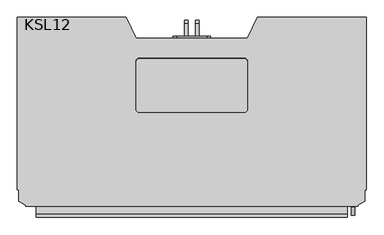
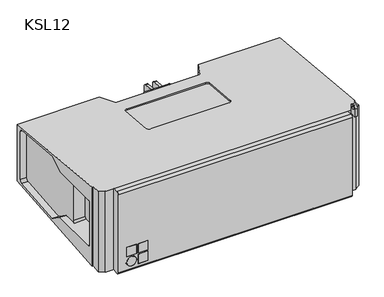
"""IFC4 building model written with IfcOpenShell, lengths in millimetres: proxy geometry, d&b SL-Series KSL : KSL12."""

from ifc_helpers import new_model, si_unit, point, frame, frame_2d, origin, place, context, project, spatial, polyline, circle_curve, trimmed, segment, composite_curve, outline, extrude, source, transform, mapped, element, save
from ifc_brep_helpers import plane_surface, cylinder_surface, revolved_surface, advanced_brep


def ksl12_920ca955(model_context):
    return source(origin(), model_context, "Body", "SolidModel", [
        advanced_brep(
        [(976.4019238, -123.1244027, 91.0), (976.4019238, -115.6244027, 83.5), (976.4019238, -115.6244027, -83.5), (976.4019238, -123.1244027, -91.0), (976.4019238, -70.6244027, -91.0), (976.4019238, -20.6244027, -124.9606604), (976.4019238, 181.0406135, -106.4302485), (976.4019238, 190.1255973, -96.4721993), (976.4019238, 190.1255973, -95.5807468), (976.4019238, 190.1255973, 95.5807468), (976.4019238, 190.1255973, 96.4721993), (976.4019238, 181.0406135, 106.4302485), (976.4019238, -20.6244027, 124.9606604), (976.4019238, -70.6244027, 91.0), (1000.0, 210.1255973, 113.7998414), (1000.0, 210.1255973, -113.7998414), (687.9784595, 210.1255973, -113.7998414), (687.9784595, 210.1255973, 113.7998414), (746.2781682, 210.1255973, 77.9807468), (712.8428103, 210.1255973, 20.0690081), (712.8428103, 210.1255973, -20.0690081), (746.2781682, 210.1255973, -77.9807468), (776.7622624, 210.1255973, -95.5807468), (950.8543039, 210.1255973, -95.5807468), (974.0543039, 210.1255973, -72.3807468), (974.0543039, 210.1255973, -44.8443894), (951.0482953, 210.1255973, -4.9968137), (951.0482953, 210.1255973, 4.9968137), (974.0543039, 210.1255973, 44.8443894), (974.0543039, 210.1255973, 72.3807468), (950.8543039, 210.1255973, 95.5807468), (776.7622624, 210.1255973, 95.5807468), (0.0, 210.1255973, -113.7998414), (0.0, 210.1255973, 113.7998414), (312.0215405, 210.1255973, 113.7998414), (312.0215405, 210.1255973, -113.7998414), (49.1456961, 210.1255973, 95.5807468), (25.9456961, 210.1255973, 72.3807468), (25.9456961, 210.1255973, 44.8443894), (48.9517047, 210.1255973, 4.9968137), (48.9517047, 210.1255973, -4.9968137), (25.9456961, 210.1255973, -44.8443894), (25.9456961, 210.1255973, -72.3807468), (49.1456961, 210.1255973, -95.5807468), (223.2377376, 210.1255973, -95.5807468), (253.7218318, 210.1255973, -77.9807468), (287.1571897, 210.1255973, -20.0690081), (287.1571897, 210.1255973, 20.0690081), (253.7218318, 210.1255973, 77.9807468), (223.2377376, 210.1255973, 95.5807468), (223.2377376, 196.3221752, 95.5807468), (49.1456961, 196.3221752, 95.5807468), (950.8543039, 196.3221752, 95.5807468), (776.7622624, 196.3221752, 95.5807468), (253.7218318, 196.3221752, 77.9807468), (287.1571897, 196.3221752, 20.0690081), (287.1571897, 196.3221752, -20.0690081), (253.7218318, 196.3221752, -77.9807468), (223.2377376, 196.3221752, -95.5807468), (49.1456961, 196.3221752, -95.5807468), (25.9456961, 196.3221752, -72.3807468), (25.9456961, 196.3221752, -44.8443894), (48.9517047, 196.3221752, -4.9968137), (48.9517047, 196.3221752, 4.9968137), (25.9456961, 196.3221752, 44.8443894), (25.9456961, 196.3221752, 72.3807468), (974.0543039, 196.3221752, 72.3807468), (974.0543039, 196.3221752, 44.8443894), (951.0482953, 196.3221752, 4.9968137), (951.0482953, 196.3221752, -4.9968137), (974.0543039, 196.3221752, -44.8443894), (974.0543039, 196.3221752, -72.3807468), (950.8543039, 196.3221752, -95.5807468), (776.7622624, 196.3221752, -95.5807468), (746.2781682, 196.3221752, -77.9807468), (712.8428103, 196.3221752, -20.0690081), (712.8428103, 196.3221752, 20.0690081), (746.2781682, 196.3221752, 77.9807468), (930.0, -257.6244027, 91.0), (976.4019238, -257.6244027, 91.0), (976.4019238, -265.1244027, 83.5), (930.0, -265.1244027, 83.5), (1000.0, -265.1244027, 83.5), (1000.0, -265.1244027, -83.5), (976.4019238, -265.1244027, -83.5), (930.0, -265.1244027, -83.5), (976.4019238, -257.6244027, -91.0), (930.0, -257.6244027, -91.0), (1000.0, -257.6244027, -91.0), (1000.0, -70.6244027, -91.0), (930.0, -123.1244027, -91.0), (930.0, -115.6244027, -83.5), (930.0, -115.6244027, 83.5), (930.0, -123.1244027, 91.0), (1000.0, -70.6244027, 91.0), (1000.0, -257.6244027, 91.0), (1000.0, -283.8744027, -159.1920647), (1000.0, -283.8744027, 159.1920647), (1000.0, 181.0406135, 106.4302485), (1000.0, 190.1255973, 96.4721993), (1000.0, 190.1255973, -96.4721993), (1000.0, 181.0406135, -106.4302485), (1000.0, -20.6244027, -124.9606604), (1000.0, -20.6244027, 124.9606604), (997.0, -283.8744027, 159.1920647), (997.0, -283.8744027, -159.1920647), (23.5980762, -123.1244027, -91.0), (23.5980762, -115.6244027, -83.5), (23.5980762, -115.6244027, 83.5), (23.5980762, -123.1244027, 91.0), (23.5980762, -70.6244027, 91.0), (23.5980762, -20.6244027, 124.9606604), (23.5980762, 181.0406135, 106.4302485), (23.5980762, 190.1255973, 96.4721993), (23.5980762, 190.1255973, 95.5807468), (23.5980762, 190.1255973, -95.5807468), (23.5980762, 190.1255973, -96.4721993), (23.5980762, 181.0406135, -106.4302485), (23.5980762, -20.6244027, -124.9606604), (23.5980762, -70.6244027, -91.0), (70.0, -257.6244027, 91.0), (23.5980762, -257.6244027, 91.0), (0.0, -257.6244027, 91.0), (0.0, -70.6244027, 91.0), (70.0, -123.1244027, 91.0), (70.0, -115.6244027, 83.5), (70.0, -115.6244027, -83.5), (70.0, -123.1244027, -91.0), (0.0, -70.6244027, -91.0), (0.0, -257.6244027, -91.0), (23.5980762, -257.6244027, -91.0), (70.0, -257.6244027, -91.0), (23.5980762, -265.1244027, -83.5), (70.0, -265.1244027, -83.5), (0.0, -265.1244027, -83.5), (0.0, -265.1244027, 83.5), (23.5980762, -265.1244027, 83.5), (70.0, -265.1244027, 83.5), (0.0, -283.8744027, -159.1920647), (0.0, -283.8744027, 159.1920647), (0.0, 181.0406135, 106.4302485), (0.0, -20.6244027, 124.9606604), (0.0, -20.6244027, -124.9606604), (0.0, 181.0406135, -106.4302485), (0.0, 190.1255973, -96.4721993), (0.0, 190.1255973, 96.4721993), (3.0, -283.8744027, -159.1920647), (3.0, -283.8744027, 159.1920647), (3.0, -316.5566714, 162.1951433), (23.5, -328.3923519, 163.2826896), (23.5, -330.1244027, 163.4418427), (976.5, -330.1244027, 163.4418427), (976.5, -328.3923519, 163.2826896), (997.0, -316.5566714, 162.1951433), (660.0, 150.1255973, 119.3130669), (340.0, 150.1255973, 119.3130669), (660.0, -52.0828968, 137.8934174), (650.0, -62.0409461, 138.8084335), (350.0, -62.0409461, 138.8084335), (340.0, -52.0828968, 137.8934174), (340.0, 83.6315767, 125.4230091), (350.0, 93.589626, 124.5079929), (650.0, 93.589626, 124.5079929), (660.0, 83.6315767, 125.4230091), (23.5, -328.3923519, -163.2826896), (3.0, -316.5566714, -162.1951433), (340.0, 150.1255973, -119.3130669), (660.0, 150.1255973, -119.3130669), (997.0, -316.5566714, -162.1951433), (976.5, -328.3923519, -163.2826896), (976.5, -330.1244027, -163.4418427), (23.5, -330.1244027, -163.4418427), (590.1880215, 150.1255973, 94.0), (580.1880215, 150.1255973, 84.0), (580.1880215, 150.1255973, -84.0101384), (590.1880215, 150.1255973, -94.0101384), (640.1880215, 150.1255973, -94.0101384), (650.1880215, 150.1255973, -84.0101384), (650.1880215, 150.1255973, 84.0), (640.1880215, 150.1255973, 94.0), (650.0, -62.4984542, 133.8294089), (660.0, -52.5404049, 132.9143927), (660.0, 83.1740686, 120.4439844), (650.0, 93.1321179, 119.5289683), (350.0, 93.1321179, 119.5289683), (340.0, 83.1740686, 120.4439844), (340.0, -52.5404049, 132.9143927), (350.0, -62.4984542, 133.8294089), (580.1880215, 145.1255973, 84.0), (590.1880215, 145.1255973, 94.0), (640.1880215, 145.1255973, 94.0), (650.1880215, 145.1255973, 84.0), (650.1880215, 145.1255973, -84.0101384), (640.1880215, 145.1255973, -94.0101384), (590.1880215, 145.1255973, -94.0101384), (580.1880215, 145.1255973, -84.0101384)],
        [
            (0, 1, circle_curve(frame((976.4019238, -123.1244027, 83.5), z_axis=(-1.0, 0.0, 0.0), x_axis=(0.0, 1.0, 0.0)), 7.5)),
            (1, 2),
            (2, 3, circle_curve(frame((976.4019238, -123.1244027, -83.5), z_axis=(-1.0, 0.0, 0.0), x_axis=(0.0, 1.0, 0.0)), 7.5)),
            (3, 4),
            (4, 5),
            (5, 6),
            (6, 7, circle_curve(frame((976.4019238, 180.1255973, -96.4721993), z_axis=(1.0, 0.0, 0.0), x_axis=(0.0, 1.0, 0.0)), 10.0)),
            (7, 8),
            (8, 9),
            (9, 10),
            (10, 11, circle_curve(frame((976.4019238, 180.1255973, 96.4721993), z_axis=(1.0, 0.0, 0.0), x_axis=(0.0, 1.0, 0.0)), 10.0)),
            (11, 12),
            (12, 13),
            (13, 0),
            (14, 15),
            (15, 16),
            (16, 17),
            (17, 14),
            (18, 19),
            (19, 20),
            (20, 21),
            (21, 22, circle_curve(frame((776.7622624, 210.1255973, -60.3807468), z_axis=(0.0, -1.0, 0.0), x_axis=(-1.0, 0.0, 0.0)), 35.2)),
            (22, 23),
            (23, 24, circle_curve(frame((950.8543039, 210.1255973, -72.3807468), z_axis=(0.0, -1.0, 0.0), x_axis=(-1.0, 0.0, 0.0)), 23.2)),
            (24, 25),
            (25, 26),
            (26, 27, circle_curve(frame((959.7030305, 210.1255973, 0.0), z_axis=(0.0, 1.0, 0.0), x_axis=(-1.0, 0.0, 0.0)), 9.9936274)),
            (27, 28),
            (28, 29),
            (29, 30, circle_curve(frame((950.8543039, 210.1255973, 72.3807468), z_axis=(0.0, -1.0, 0.0), x_axis=(-1.0, 0.0, 0.0)), 23.2)),
            (30, 31),
            (31, 18, circle_curve(frame((776.7622624, 210.1255973, 60.3807468), z_axis=(0.0, -1.0, 0.0), x_axis=(-1.0, 0.0, 0.0)), 35.2)),
            (32, 33),
            (33, 34),
            (34, 35),
            (35, 32),
            (36, 37, circle_curve(frame((49.1456961, 210.1255973, 72.3807468), z_axis=(0.0, -1.0, 0.0), x_axis=(-1.0, 0.0, 0.0)), 23.2)),
            (37, 38),
            (38, 39),
            (39, 40, circle_curve(frame((40.2969695, 210.1255973, 0.0), z_axis=(0.0, 1.0, 0.0), x_axis=(-1.0, 0.0, 0.0)), 9.9936274)),
            (40, 41),
            (41, 42),
            (42, 43, circle_curve(frame((49.1456961, 210.1255973, -72.3807468), z_axis=(0.0, -1.0, 0.0), x_axis=(-1.0, 0.0, 0.0)), 23.2)),
            (43, 44),
            (44, 45, circle_curve(frame((223.2377376, 210.1255973, -60.3807468), z_axis=(0.0, -1.0, 0.0), x_axis=(-1.0, 0.0, 0.0)), 35.2)),
            (45, 46),
            (46, 47),
            (47, 48),
            (48, 49, circle_curve(frame((223.2377376, 210.1255973, 60.3807468), z_axis=(0.0, -1.0, 0.0), x_axis=(-1.0, 0.0, 0.0)), 35.2)),
            (49, 36),
            (49, 50),
            (50, 51),
            (51, 36),
            (30, 52),
            (52, 53),
            (53, 31),
            (50, 54, circle_curve(frame((223.2377376, 196.3221752, 60.3807468), z_axis=(0.0, 1.0, 0.0), x_axis=(-1.0, 0.0, 0.0)), 35.2)),
            (54, 55),
            (55, 56),
            (56, 57),
            (57, 58, circle_curve(frame((223.2377376, 196.3221752, -60.3807468), z_axis=(0.0, 1.0, 0.0), x_axis=(-1.0, 0.0, 0.0)), 35.2)),
            (58, 59),
            (59, 60, circle_curve(frame((49.1456961, 196.3221752, -72.3807468), z_axis=(0.0, 1.0, 0.0), x_axis=(-1.0, 0.0, 0.0)), 23.2)),
            (60, 61),
            (61, 62),
            (62, 63, circle_curve(frame((40.2969695, 196.3221752, 0.0), z_axis=(0.0, -1.0, 0.0), x_axis=(-1.0, 0.0, 0.0)), 9.9936274)),
            (63, 64),
            (64, 65),
            (65, 51, circle_curve(frame((49.1456961, 196.3221752, 72.3807468), z_axis=(0.0, 1.0, 0.0), x_axis=(-1.0, 0.0, 0.0)), 23.2)),
            (52, 66, circle_curve(frame((950.8543039, 196.3221752, 72.3807468), z_axis=(0.0, 1.0, 0.0), x_axis=(-1.0, 0.0, 0.0)), 23.2)),
            (66, 67),
            (67, 68),
            (68, 69, circle_curve(frame((959.7030305, 196.3221752, 0.0), z_axis=(0.0, -1.0, 0.0), x_axis=(-1.0, 0.0, 0.0)), 9.9936274)),
            (69, 70),
            (70, 71),
            (71, 72, circle_curve(frame((950.8543039, 196.3221752, -72.3807468), z_axis=(0.0, 1.0, 0.0), x_axis=(-1.0, 0.0, 0.0)), 23.2)),
            (72, 73),
            (73, 74, circle_curve(frame((776.7622624, 196.3221752, -60.3807468), z_axis=(0.0, 1.0, 0.0), x_axis=(-1.0, 0.0, 0.0)), 35.2)),
            (74, 75),
            (75, 76),
            (76, 77),
            (77, 53, circle_curve(frame((776.7622624, 196.3221752, 60.3807468), z_axis=(0.0, 1.0, 0.0), x_axis=(-1.0, 0.0, 0.0)), 35.2)),
            (43, 59),
            (58, 44),
            (22, 73),
            (72, 23),
            (78, 79),
            (79, 80, circle_curve(frame((976.4019238, -257.6244027, 83.5), z_axis=(1.0, 0.0, 0.0), x_axis=(0.0, 1.0, 0.0)), 7.5)),
            (80, 81),
            (81, 78, circle_curve(frame((930.0, -257.6244027, 83.5), z_axis=(-1.0, 0.0, 0.0), x_axis=(0.0, 1.0, 0.0)), 7.5)),
            (80, 82),
            (82, 83),
            (83, 84),
            (84, 85),
            (85, 81),
            (84, 86, circle_curve(frame((976.4019238, -257.6244027, -83.5), z_axis=(1.0, 0.0, 0.0), x_axis=(0.0, 1.0, 0.0)), 7.5)),
            (86, 87),
            (87, 85, circle_curve(frame((930.0, -257.6244027, -83.5), z_axis=(-1.0, 0.0, 0.0), x_axis=(0.0, 1.0, 0.0)), 7.5)),
            (86, 88),
            (88, 89),
            (89, 4),
            (3, 90),
            (90, 87),
            (2, 91),
            (91, 90, circle_curve(frame((930.0, -123.1244027, -83.5), z_axis=(-1.0, 0.0, 0.0), x_axis=(0.0, 1.0, 0.0)), 7.5)),
            (1, 92),
            (92, 91),
            (0, 93),
            (93, 92, circle_curve(frame((930.0, -123.1244027, 83.5), z_axis=(-1.0, 0.0, 0.0), x_axis=(0.0, 1.0, 0.0)), 7.5)),
            (78, 93),
            (13, 94),
            (94, 95),
            (95, 79),
            (96, 15),
            (14, 97),
            (97, 96),
            (98, 99, circle_curve(frame((1000.0, 180.1255973, 96.4721993), z_axis=(-1.0, 0.0, 0.0), x_axis=(0.0, 1.0, 0.0)), 10.0)),
            (99, 100),
            (100, 101, circle_curve(frame((1000.0, 180.1255973, -96.4721993), z_axis=(-1.0, 0.0, 0.0), x_axis=(0.0, 1.0, 0.0)), 10.0)),
            (101, 102),
            (102, 89),
            (88, 83, circle_curve(frame((1000.0, -257.6244027, -83.5), z_axis=(-1.0, 0.0, 0.0), x_axis=(0.0, 1.0, 0.0)), 7.5)),
            (82, 95, circle_curve(frame((1000.0, -257.6244027, 83.5), z_axis=(-1.0, 0.0, 0.0), x_axis=(0.0, 1.0, 0.0)), 7.5)),
            (94, 103),
            (103, 98),
            (97, 104),
            (104, 105),
            (105, 96),
            (103, 12),
            (11, 98),
            (102, 5),
            (101, 6),
            (100, 7),
            (99, 10),
            (106, 107, circle_curve(frame((23.5980762, -123.1244027, -83.5), z_axis=(1.0, 0.0, 0.0), x_axis=(0.0, 1.0, 0.0)), 7.5)),
            (107, 108),
            (108, 109, circle_curve(frame((23.5980762, -123.1244027, 83.5), z_axis=(1.0, 0.0, 0.0), x_axis=(0.0, 1.0, 0.0)), 7.5)),
            (109, 110),
            (110, 111),
            (111, 112),
            (112, 113, circle_curve(frame((23.5980762, 180.1255973, 96.4721993), z_axis=(-1.0, 0.0, 0.0), x_axis=(0.0, 1.0, 0.0)), 10.0)),
            (113, 114),
            (114, 115),
            (115, 116),
            (116, 117, circle_curve(frame((23.5980762, 180.1255973, -96.4721993), z_axis=(-1.0, 0.0, 0.0), x_axis=(0.0, 1.0, 0.0)), 10.0)),
            (117, 118),
            (118, 119),
            (119, 106),
            (120, 121),
            (121, 122),
            (122, 123),
            (123, 110),
            (109, 124),
            (124, 120),
            (108, 125),
            (125, 124, circle_curve(frame((70.0, -123.1244027, 83.5), z_axis=(1.0, 0.0, 0.0), x_axis=(0.0, 1.0, 0.0)), 7.5)),
            (107, 126),
            (126, 125),
            (106, 127),
            (127, 126, circle_curve(frame((70.0, -123.1244027, -83.5), z_axis=(1.0, 0.0, 0.0), x_axis=(0.0, 1.0, 0.0)), 7.5)),
            (119, 128),
            (128, 129),
            (129, 130),
            (130, 131),
            (131, 127),
            (130, 132, circle_curve(frame((23.5980762, -257.6244027, -83.5), z_axis=(-1.0, 0.0, 0.0), x_axis=(0.0, 1.0, 0.0)), 7.5)),
            (132, 133),
            (133, 131, circle_curve(frame((70.0, -257.6244027, -83.5), z_axis=(1.0, 0.0, 0.0), x_axis=(0.0, 1.0, 0.0)), 7.5)),
            (132, 134),
            (134, 135),
            (135, 136),
            (136, 137),
            (137, 133),
            (120, 137, circle_curve(frame((70.0, -257.6244027, 83.5), z_axis=(1.0, 0.0, 0.0), x_axis=(0.0, 1.0, 0.0)), 7.5)),
            (136, 121, circle_curve(frame((23.5980762, -257.6244027, 83.5), z_axis=(-1.0, 0.0, 0.0), x_axis=(0.0, 1.0, 0.0)), 7.5)),
            (138, 139),
            (139, 33),
            (32, 138),
            (140, 141),
            (141, 123),
            (122, 135, circle_curve(frame((0.0, -257.6244027, 83.5), z_axis=(1.0, 0.0, 0.0), x_axis=(0.0, 1.0, 0.0)), 7.5)),
            (134, 129, circle_curve(frame((0.0, -257.6244027, -83.5), z_axis=(1.0, 0.0, 0.0), x_axis=(0.0, 1.0, 0.0)), 7.5)),
            (128, 142),
            (142, 143),
            (143, 144, circle_curve(frame((0.0, 180.1255973, -96.4721993), z_axis=(1.0, 0.0, 0.0), x_axis=(0.0, 1.0, 0.0)), 10.0)),
            (144, 145),
            (145, 140, circle_curve(frame((0.0, 180.1255973, 96.4721993), z_axis=(1.0, 0.0, 0.0), x_axis=(0.0, 1.0, 0.0)), 10.0)),
            (138, 146),
            (146, 147),
            (147, 139),
            (140, 112),
            (111, 141),
            (118, 142),
            (117, 143),
            (116, 144),
            (113, 145),
            (148, 149),
            (149, 150),
            (150, 151),
            (151, 152),
            (152, 153),
            (153, 104),
            (17, 154),
            (154, 155),
            (155, 34),
            (147, 148),
            (156, 157, circle_curve(frame((650.0, -52.0828968, 137.8934174), z_axis=(0.0, -0.09150161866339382, -0.9958049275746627), x_axis=(0.0, -0.9958049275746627, 0.09150161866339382)), 10.0)),
            (157, 158),
            (158, 159, circle_curve(frame((350.0, -52.0828968, 137.8934174), z_axis=(0.0, -0.09150161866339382, -0.9958049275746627), x_axis=(0.0, -0.9958049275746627, 0.09150161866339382)), 10.0)),
            (159, 160),
            (160, 161, circle_curve(frame((350.0, 83.6315767, 125.4230091), z_axis=(0.0, -0.09150161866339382, -0.9958049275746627), x_axis=(0.0, -0.9958049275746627, 0.09150161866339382)), 10.0)),
            (161, 162),
            (162, 163, circle_curve(frame((650.0, 83.6315767, 125.4230091), z_axis=(0.0, -0.09150161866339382, -0.9958049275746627), x_axis=(0.0, -0.9958049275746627, 0.09150161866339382)), 10.0)),
            (163, 156),
            (164, 165),
            (165, 146),
            (35, 166),
            (166, 167),
            (167, 16),
            (105, 168),
            (168, 169),
            (169, 170),
            (170, 171),
            (171, 164),
            (148, 165),
            (164, 149),
            (171, 150),
            (170, 151),
            (169, 152),
            (168, 153),
            (155, 166),
            (154, 167),
            (172, 173, circle_curve(frame((590.1880215, 150.1255973, 84.0), z_axis=(0.0, -1.0, 0.0), x_axis=(-1.0, 0.0, 0.0)), 10.0)),
            (173, 174),
            (174, 175, circle_curve(frame((590.1880215, 150.1255973, -84.0101384), z_axis=(0.0, -1.0, 0.0), x_axis=(-1.0, 0.0, 0.0)), 10.0)),
            (175, 176),
            (176, 177, circle_curve(frame((640.1880215, 150.1255973, -84.0101384), z_axis=(0.0, -1.0, 0.0), x_axis=(-1.0, 0.0, 0.0)), 10.0)),
            (177, 178),
            (178, 179, circle_curve(frame((640.1880215, 150.1255973, 84.0), z_axis=(0.0, -1.0, 0.0), x_axis=(-1.0, 0.0, 0.0)), 10.0)),
            (179, 172),
            (47, 55),
            (54, 48),
            (46, 56),
            (45, 57),
            (42, 60),
            (41, 61),
            (40, 62),
            (39, 63),
            (38, 64),
            (37, 65),
            (18, 77),
            (76, 19),
            (75, 20),
            (74, 21),
            (71, 24),
            (70, 25),
            (69, 26),
            (68, 27),
            (67, 28),
            (66, 29),
            (180, 181, circle_curve(frame((650.0, -52.5404049, 132.9143927), z_axis=(0.0, 0.09150161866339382, 0.9958049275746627), x_axis=(0.0, -0.9958049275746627, 0.09150161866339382)), 10.0)),
            (181, 182),
            (182, 183, circle_curve(frame((650.0, 83.1740686, 120.4439844), z_axis=(0.0, 0.09150161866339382, 0.9958049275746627), x_axis=(0.0, -0.9958049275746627, 0.09150161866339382)), 10.0)),
            (183, 184),
            (184, 185, circle_curve(frame((350.0, 83.1740686, 120.4439844), z_axis=(0.0, 0.09150161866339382, 0.9958049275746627), x_axis=(0.0, -0.9958049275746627, 0.09150161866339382)), 10.0)),
            (185, 186),
            (186, 187, circle_curve(frame((350.0, -52.5404049, 132.9143927), z_axis=(0.0, 0.09150161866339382, 0.9958049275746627), x_axis=(0.0, -0.9958049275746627, 0.09150161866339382)), 10.0)),
            (187, 180),
            (180, 157),
            (156, 181),
            (163, 182),
            (162, 183),
            (161, 184),
            (160, 185),
            (159, 186),
            (158, 187),
            (188, 189, circle_curve(frame((590.1880215, 145.1255973, 84.0), z_axis=(0.0, 1.0, 0.0), x_axis=(-1.0, 0.0, 0.0)), 10.0)),
            (189, 190),
            (190, 191, circle_curve(frame((640.1880215, 145.1255973, 84.0), z_axis=(0.0, 1.0, 0.0), x_axis=(-1.0, 0.0, 0.0)), 10.0)),
            (191, 192),
            (192, 193, circle_curve(frame((640.1880215, 145.1255973, -84.0101384), z_axis=(0.0, 1.0, 0.0), x_axis=(-1.0, 0.0, 0.0)), 10.0)),
            (193, 194),
            (194, 195, circle_curve(frame((590.1880215, 145.1255973, -84.0101384), z_axis=(0.0, 1.0, 0.0), x_axis=(-1.0, 0.0, 0.0)), 10.0)),
            (195, 188),
            (188, 173),
            (172, 189),
            (179, 190),
            (178, 191),
            (177, 192),
            (176, 193),
            (175, 194),
            (174, 195),
        ],
        [
            plane_surface(frame((976.4019238, -283.8744027, 191.9850007), z_axis=(1.0, 0.0, 0.0), x_axis=(0.0, 0.0, -1.0))),
            plane_surface(frame((930.0, 210.1255973, 113.7998414), z_axis=(0.0, 1.0, 0.0), x_axis=(1.0, 0.0, 0.0))),
            plane_surface(frame((930.0, 210.1255973, 95.5807468), z_axis=(0.0, 0.0, -1.0), x_axis=(1.0, 0.0, 0.0))),
            plane_surface(frame((930.0, 196.3221752, 95.5807468), z_axis=(0.0, 1.0, 0.0), x_axis=(1.0, 0.0, 0.0))),
            plane_surface(frame((930.0, 196.3221752, -95.5807468), z_axis=(0.0, 0.0, 1.0), x_axis=(1.0, 0.0, 0.0))),
            revolved_surface(polyline([(976.4019238, -250.12440270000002, 83.5), (930.0, -250.12440270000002, 83.5)]), (469.3, -257.6244027, 83.5), (1.0, 0.0, 0.0)),
            plane_surface(frame((930.0, -265.1244027, 83.5), z_axis=(0.0, 1.0, 0.0), x_axis=(1.0, 0.0, 0.0))),
            revolved_surface(polyline([(976.4019238, -250.12440270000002, -83.5), (930.0, -250.12440270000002, -83.5)]), (469.3, -257.6244027, -83.5), (1.0, 0.0, 0.0)),
            plane_surface(frame((930.0, -257.6244027, -91.0), z_axis=(0.0, 0.0, 1.0), x_axis=(1.0, 0.0, 0.0))),
            revolved_surface(polyline([(976.4019238, -115.6244027, -83.5), (930.0, -115.6244027, -83.5)]), (469.3, -123.1244027, -83.5), (1.0, 0.0, 0.0)),
            plane_surface(frame((930.0, -115.6244027, -83.5), z_axis=(0.0, -1.0, 0.0), x_axis=(1.0, 0.0, 0.0))),
            revolved_surface(polyline([(976.4019238, -115.6244027, 83.5), (930.0, -115.6244027, 83.5)]), (469.3, -123.1244027, 83.5), (1.0, 0.0, 0.0)),
            plane_surface(frame((930.0, -123.1244027, 91.0), z_axis=(0.0, 0.0, -1.0), x_axis=(1.0, 0.0, 0.0))),
            plane_surface(frame((1000.0, -283.8744027, 191.9850007), z_axis=(1.0, 0.0, 0.0), x_axis=(0.0, 0.0, -1.0))),
            plane_surface(frame((976.4019238, -283.8744027, -159.1920647), z_axis=(0.0, -1.0, 0.0), x_axis=(1.0, 0.0, 0.0))),
            plane_surface(frame((976.4019238, 181.0406135, 106.4302485), z_axis=(0.0, -0.09150161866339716, -0.9958049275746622), x_axis=(1.0, 0.0, 0.0))),
            plane_surface(frame((976.4019238, -20.6244027, 124.9606604), z_axis=(0.0, 0.5618648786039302, -0.8272290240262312), x_axis=(1.0, 0.0, 0.0))),
            revolved_surface(polyline([(1000.0, -250.12440270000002, 83.5), (976.4019238, -250.12440270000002, 83.5)]), (500.0, -257.6244027, 83.5), (1.0, 0.0, 0.0)),
            revolved_surface(polyline([(1000.0, -250.12440270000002, -83.5), (976.4019238, -250.12440270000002, -83.5)]), (500.0, -257.6244027, -83.5), (1.0, 0.0, 0.0)),
            plane_surface(frame((976.4019238, -70.6244027, -91.0), z_axis=(0.0, 0.561864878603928, 0.8272290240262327), x_axis=(1.0, 0.0, 0.0))),
            plane_surface(frame((976.4019238, -20.6244027, -124.9606604), z_axis=(0.0, -0.09150161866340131, 0.9958049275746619), x_axis=(1.0, 0.0, 0.0))),
            revolved_surface(polyline([(1000.0, 190.1255973, -96.4721993), (976.4019238, 190.1255973, -96.4721993)]), (500.0, 180.1255973, -96.4721993), (1.0, 0.0, 0.0)),
            plane_surface(frame((976.4019238, 190.1255973, -96.4721993), z_axis=(0.0, -1.0, 0.0), x_axis=(1.0, 0.0, 0.0))),
            revolved_surface(polyline([(1000.0, 190.1255973, 96.4721993), (976.4019238, 190.1255973, 96.4721993)]), (500.0, 180.1255973, 96.4721993), (1.0, 0.0, 0.0)),
            plane_surface(frame((23.5980762, -538.4291723, -182.5823621), z_axis=(-1.0, 0.0, 0.0), x_axis=(0.0, -0.9958049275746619, -0.09150161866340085))),
            plane_surface(frame((70.0, -257.6244027, 91.0), z_axis=(0.0, 0.0, -1.0), x_axis=(-1.0, 0.0, 0.0))),
            revolved_surface(polyline([(23.59807619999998, -115.6244027, 83.5), (70.0, -115.6244027, 83.5)]), (530.7, -123.1244027, 83.5), (-1.0, 0.0, 0.0)),
            plane_surface(frame((70.0, -115.6244027, 83.5), z_axis=(0.0, -1.0, 0.0), x_axis=(-1.0, 0.0, 0.0))),
            revolved_surface(polyline([(23.59807619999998, -115.6244027, -83.5), (70.0, -115.6244027, -83.5)]), (530.7, -123.1244027, -83.5), (-1.0, 0.0, 0.0)),
            plane_surface(frame((70.0, -123.1244027, -91.0), z_axis=(0.0, 0.0, 1.0), x_axis=(-1.0, 0.0, 0.0))),
            revolved_surface(polyline([(23.59807619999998, -250.12440270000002, -83.5), (70.0, -250.12440270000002, -83.5)]), (530.7, -257.6244027, -83.5), (-1.0, 0.0, 0.0)),
            plane_surface(frame((70.0, -265.1244027, -83.5), z_axis=(0.0, 1.0, 0.0), x_axis=(-1.0, 0.0, 0.0))),
            revolved_surface(polyline([(23.59807619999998, -250.12440270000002, 83.5), (70.0, -250.12440270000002, 83.5)]), (530.7, -257.6244027, 83.5), (-1.0, 0.0, 0.0)),
            plane_surface(frame((930.0, -538.4291723, -182.5823621), z_axis=(1.0, 0.0, 0.0), x_axis=(0.0, 0.9958049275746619, 0.09150161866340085))),
            plane_surface(frame((70.0, -538.4291723, -182.5823621), z_axis=(-1.0, 0.0, 0.0), x_axis=(0.0, -0.9958049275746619, -0.09150161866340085))),
            plane_surface(frame((0.0, -538.4291723, -182.5823621), z_axis=(-1.0, 0.0, 0.0), x_axis=(0.0, -0.9958049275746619, -0.09150161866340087))),
            plane_surface(frame((23.5980762, -283.8744027, 159.1920647), z_axis=(0.0, -1.0, 0.0), x_axis=(-1.0, 0.0, 0.0))),
            plane_surface(frame((23.5980762, -20.6244027, 124.9606604), z_axis=(0.0, -0.09150161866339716, -0.9958049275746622), x_axis=(-1.0, 0.0, 0.0))),
            plane_surface(frame((23.5980762, -70.6244027, 91.0), z_axis=(0.0, 0.5618648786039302, -0.8272290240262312), x_axis=(-1.0, 0.0, 0.0))),
            revolved_surface(polyline([(0.0, -250.12440270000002, 83.5), (23.59807619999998, -250.12440270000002, 83.5)]), (500.0, -257.6244027, 83.5), (-1.0, 0.0, 0.0)),
            plane_surface(frame((23.5980762, -20.6244027, -124.9606604), z_axis=(0.0, 0.561864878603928, 0.8272290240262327), x_axis=(-1.0, 0.0, 0.0))),
            plane_surface(frame((23.5980762, 181.0406135, -106.4302485), z_axis=(0.0, -0.09150161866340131, 0.9958049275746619), x_axis=(-1.0, 0.0, 0.0))),
            revolved_surface(polyline([(0.0, 190.1255973, -96.4721993), (23.59807619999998, 190.1255973, -96.4721993)]), (500.0, 180.1255973, -96.4721993), (-1.0, 0.0, 0.0)),
            plane_surface(frame((23.5980762, 190.1255973, 96.4721993), z_axis=(0.0, -1.0, 0.0), x_axis=(-1.0, 0.0, 0.0))),
            revolved_surface(polyline([(0.0, 190.1255973, 96.4721993), (23.59807619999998, 190.1255973, 96.4721993)]), (500.0, 180.1255973, 96.4721993), (-1.0, 0.0, 0.0)),
            revolved_surface(polyline([(0.0, -250.12440270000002, -83.5), (23.59807619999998, -250.12440270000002, -83.5)]), (500.0, -257.6244027, -83.5), (-1.0, 0.0, 0.0)),
            plane_surface(frame((1200.0, -336.6244027, 164.0391088), z_axis=(0.0, 0.09150161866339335, 0.9958049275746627), x_axis=(-1.0, 0.0, 0.0))),
            plane_surface(frame((1200.0, -271.6244027, -158.0664478), z_axis=(0.0, 0.09150161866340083, -0.9958049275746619), x_axis=(-1.0, 0.0, 0.0))),
            plane_surface(frame((3.0, -316.5566714, 200.0), z_axis=(-0.499999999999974, -0.8660254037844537, 0.0), x_axis=(0.0, 0.0, -1.0))),
            plane_surface(frame((23.5, -328.3923519, 200.0), z_axis=(-1.0, 0.0, 0.0), x_axis=(0.0, 0.0, -1.0))),
            plane_surface(frame((23.5, -330.1244027, 200.0), z_axis=(0.0, -1.0, 0.0), x_axis=(0.0, 0.0, -1.0))),
            plane_surface(frame((976.5, -330.1244027, 200.0), z_axis=(1.0, 0.0, 0.0), x_axis=(0.0, 0.0, -1.0))),
            plane_surface(frame((976.5, -328.3923519, 200.0), z_axis=(0.49999999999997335, -0.866025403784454, 0.0), x_axis=(0.0, 0.0, -1.0))),
            plane_surface(frame((997.0, -316.5566714, 200.0), z_axis=(1.0, 0.0, 0.0), x_axis=(0.0, 0.0, -1.0))),
            plane_surface(frame((3.0, -283.8744027, 200.0), z_axis=(-1.0, 0.0, 0.0), x_axis=(0.0, 0.0, -1.0))),
            plane_surface(frame((263.5255441, 314.1255973, 250.0), z_axis=(0.9063077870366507, 0.4226182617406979, 0.0), x_axis=(0.0, 0.0, -1.0))),
            plane_surface(frame((340.0, 150.1255973, 250.0), z_axis=(0.0, 1.0, 0.0), x_axis=(0.0, 0.0, -1.0))),
            plane_surface(frame((660.0, 150.1255973, 250.0), z_axis=(-0.9063077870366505, 0.4226182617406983, 0.0), x_axis=(0.0, 0.0, -1.0))),
            plane_surface(frame((287.1571897, 210.1255973, 20.0690081), z_axis=(-0.8660254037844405, 0.0, -0.49999999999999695), x_axis=(0.0, -1.0, 0.0))),
            plane_surface(frame((287.1571897, 210.1255973, -20.0690081), z_axis=(-1.0, 0.0, 0.0), x_axis=(0.0, -1.0, 0.0))),
            plane_surface(frame((253.7218318, 210.1255973, -77.9807468), z_axis=(-0.8660254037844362, 0.0, 0.5000000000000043), x_axis=(0.0, -1.0, 0.0))),
            revolved_surface(polyline([(188.0377376, 196.3221752, -60.3807468), (188.0377376, 210.1255973, -60.3807468)]), (223.2377376, 190.1255973, -60.3807468), (0.0, -1.0, 0.0)),
            revolved_surface(polyline([(25.945696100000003, 196.3221752, -72.3807468), (25.945696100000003, 210.1255973, -72.3807468)]), (49.1456961, 210.1255973, -72.3807468), (0.0, -1.0, 0.0)),
            plane_surface(frame((25.9456961, 210.1255973, -44.8443894), z_axis=(1.0, 0.0, 0.0), x_axis=(0.0, -1.0, 0.0))),
            plane_surface(frame((48.9517047, 210.1255973, -4.9968137), z_axis=(0.866025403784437, 0.0, -0.5000000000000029), x_axis=(0.0, -1.0, 0.0))),
            cylinder_surface(frame((40.2969695, 210.1255973, 0.0), z_axis=(0.0, 1.0, 0.0), x_axis=(-1.0, 0.0, 0.0)), 9.9936274),
            plane_surface(frame((25.9456961, 210.1255973, 44.8443894), z_axis=(0.8660254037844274, 0.0, 0.5000000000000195), x_axis=(0.0, -1.0, 0.0))),
            plane_surface(frame((25.9456961, 210.1255973, 72.3807468), z_axis=(1.0, 0.0, 0.0), x_axis=(0.0, -1.0, 0.0))),
            revolved_surface(polyline([(25.945696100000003, 196.3221752, 72.3807468), (25.945696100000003, 210.1255973, 72.3807468)]), (49.1456961, 210.1255973, 72.3807468), (0.0, -1.0, 0.0)),
            revolved_surface(polyline([(188.0377376, 196.3221752, 60.3807468), (188.0377376, 210.1255973, 60.3807468)]), (223.2377376, 190.1255973, 60.3807468), (0.0, -1.0, 0.0)),
            plane_surface(frame((746.2781682, 210.1255973, 77.9807468), z_axis=(0.86602540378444, 0.0, -0.49999999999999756), x_axis=(0.0, -1.0, 0.0))),
            plane_surface(frame((712.8428103, 210.1255973, 20.0690081), z_axis=(1.0, 0.0, 0.0), x_axis=(0.0, -1.0, 0.0))),
            plane_surface(frame((712.8428103, 210.1255973, -20.0690081), z_axis=(0.8660254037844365, 0.0, 0.5000000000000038), x_axis=(0.0, -1.0, 0.0))),
            revolved_surface(polyline([(741.5622624, 196.3221752, -60.3807468), (741.5622624, 210.1255973, -60.3807468)]), (776.7622624, 210.1255973, -60.3807468), (0.0, -1.0, 0.0)),
            revolved_surface(polyline([(741.5622624, 196.3221752, 60.3807468), (741.5622624, 210.1255973, 60.3807468)]), (776.7622624, 210.1255973, 60.3807468), (0.0, -1.0, 0.0)),
            revolved_surface(polyline([(927.6543039, 196.3221752, -72.3807468), (927.6543039, 210.1255973, -72.3807468)]), (950.8543039, 210.1255973, -72.3807468), (0.0, -1.0, 0.0)),
            plane_surface(frame((974.0543039, 210.1255973, -72.3807468), z_axis=(-1.0, 0.0, 0.0), x_axis=(0.0, -1.0, 0.0))),
            plane_surface(frame((974.0543039, 210.1255973, -44.8443894), z_axis=(-0.8660254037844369, 0.0, -0.500000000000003), x_axis=(0.0, -1.0, 0.0))),
            cylinder_surface(frame((959.7030305, 210.1255973, 0.0), z_axis=(0.0, 1.0, 0.0), x_axis=(-1.0, 0.0, 0.0)), 9.9936274),
            plane_surface(frame((951.0482953, 210.1255973, 4.9968137), z_axis=(-0.866025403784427, 0.0, 0.5000000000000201), x_axis=(0.0, -1.0, 0.0))),
            plane_surface(frame((974.0543039, 210.1255973, 44.8443894), z_axis=(-1.0, 0.0, 0.0), x_axis=(0.0, -1.0, 0.0))),
            revolved_surface(polyline([(927.6543039, 196.3221752, 72.3807468), (927.6543039, 210.1255973, 72.3807468)]), (950.8543039, 210.1255973, 72.3807468), (0.0, -1.0, 0.0)),
            plane_surface(frame((650.0, -62.4984542, 133.8294089), z_axis=(0.0, 0.09150161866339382, 0.9958049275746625), x_axis=(-1.0, 0.0, 0.0))),
            revolved_surface(polyline([(650.0, -62.040946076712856, 138.80843358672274), (650.0, -62.49845417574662, 133.82940888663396)]), (650.0, -52.5404049, 132.9143927), (0.0, 0.09150161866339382, 0.9958049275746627)),
            plane_surface(frame((660.0, -52.0828968, 137.8934174), z_axis=(-1.0000000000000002, 0.0, 0.0), x_axis=(0.0, -0.09150161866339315, -0.9958049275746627))),
            revolved_surface(polyline([(650.0, 73.67352742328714, 126.33802528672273), (650.0, 73.21601932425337, 121.35900058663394)]), (650.0, 83.1740686, 120.4439844), (0.0, 0.09150161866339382, 0.9958049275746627)),
            plane_surface(frame((650.0, 93.589626, 124.5079929), z_axis=(0.0, -0.9958049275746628, 0.09150161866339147), x_axis=(0.0, -0.09150161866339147, -0.9958049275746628))),
            revolved_surface(polyline([(350.0, 73.67352742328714, 126.33802528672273), (350.0, 73.21601932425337, 121.35900058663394)]), (350.0, 83.1740686, 120.4439844), (0.0, 0.09150161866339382, 0.9958049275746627)),
            plane_surface(frame((340.0, 83.6315767, 125.4230091), z_axis=(1.0, 0.0, 0.0), x_axis=(0.0, -0.09150161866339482, -0.9958049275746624))),
            revolved_surface(polyline([(350.0, -62.040946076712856, 138.80843358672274), (350.0, -62.49845417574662, 133.82940888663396)]), (350.0, -52.5404049, 132.9143927), (0.0, 0.09150161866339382, 0.9958049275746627)),
            plane_surface(frame((350.0, -62.0409461, 138.8084335), z_axis=(0.0, 0.9958049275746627, -0.09150161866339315), x_axis=(0.0, -0.09150161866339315, -0.9958049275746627))),
            plane_surface(frame((580.1880215, 145.1255973, 84.0), z_axis=(0.0, 1.0, 0.0), x_axis=(0.0, 0.0, -1.0))),
            revolved_surface(polyline([(580.1880215, 150.1255973, 84.0), (580.1880215, 145.1255973, 84.0)]), (590.1880215, 145.1255973, 84.0), (0.0, 1.0, 0.0)),
            plane_surface(frame((590.1880215, 150.1255973, 94.0), z_axis=(0.0, 0.0, -1.0), x_axis=(0.0, -1.0, 0.0))),
            revolved_surface(polyline([(630.1880215, 150.1255973, 84.0), (630.1880215, 145.1255973, 84.0)]), (640.1880215, 145.1255973, 84.0), (0.0, 1.0, 0.0)),
            plane_surface(frame((650.1880215, 150.1255973, 84.0), z_axis=(-1.0, 0.0, 0.0), x_axis=(0.0, -1.0, 0.0))),
            revolved_surface(polyline([(630.1880215, 150.1255973, -84.0101384), (630.1880215, 145.1255973, -84.0101384)]), (640.1880215, 145.1255973, -84.0101384), (0.0, 1.0, 0.0)),
            plane_surface(frame((640.1880215, 150.1255973, -94.0101384), z_axis=(0.0, 0.0, 1.0), x_axis=(0.0, -1.0, 0.0))),
            revolved_surface(polyline([(580.1880215, 150.1255973, -84.0101384), (580.1880215, 145.1255973, -84.0101384)]), (590.1880215, 145.1255973, -84.0101384), (0.0, 1.0, 0.0)),
            plane_surface(frame((580.1880215, 150.1255973, -84.0101384), z_axis=(1.0, 0.0, 0.0), x_axis=(0.0, -1.0, 0.0))),
        ],
        [
            (0, [[1, 2, 3, 4, 5, 6, 7, 8, 9, 10, 11, 12, 13, 14]]),
            (1, [[15, 16, 17, 18], [19, 20, 21, 22, 23, 24, 25, 26, 27, 28, 29, 30, 31, 32]]),
            (1, [[33, 34, 35, 36], [37, 38, 39, 40, 41, 42, 43, 44, 45, 46, 47, 48, 49, 50]]),
            (2, [[-50, 51, 52, 53]]),
            (2, [[-31, 54, 55, 56]]),
            (3, [[-52, 57, 58, 59, 60, 61, 62, 63, 64, 65, 66, 67, 68, 69]]),
            (3, [[-55, 70, 71, 72, 73, 74, 75, 76, 77, 78, 79, 80, 81, 82]]),
            (4, [[-44, 83, -62, 84]]),
            (4, [[-23, 85, -77, 86]]),
            (5, [[87, 88, 89, 90]]),
            (6, [[-89, 91, 92, 93, 94, 95]]),
            (7, [[-94, 96, 97, 98]]),
            (8, [[-97, 99, 100, 101, -4, 102, 103]]),
            (9, [[-3, 104, 105, -102]]),
            (10, [[-2, 106, 107, -104]]),
            (11, [[-1, 108, 109, -106]]),
            (12, [[-87, 110, -108, -14, 111, 112, 113]]),
            (13, [[114, -15, 115, 116], [117, 118, 119, 120, 121, -100, 122, -92, 123, -112, 124, 125]]),
            (14, [[-116, 126, 127, 128]]),
            (15, [[-125, 129, -12, 130]]),
            (16, [[-124, -111, -13, -129]]),
            (17, [[-123, -91, -88, -113]]),
            (18, [[-122, -99, -96, -93]]),
            (19, [[-121, 131, -5, -101]]),
            (20, [[-120, 132, -6, -131]]),
            (21, [[-119, 133, -7, -132]]),
            (22, [[-118, 134, -10, -9, -8, -133]]),
            (23, [[-117, -130, -11, -134]]),
            (24, [[135, 136, 137, 138, 139, 140, 141, 142, 143, 144, 145, 146, 147, 148]]),
            (25, [[149, 150, 151, 152, -138, 153, 154]]),
            (26, [[-137, 155, 156, -153]]),
            (27, [[-136, 157, 158, -155]]),
            (28, [[-135, 159, 160, -157]]),
            (29, [[-159, -148, 161, 162, 163, 164, 165]]),
            (30, [[-164, 166, 167, 168]]),
            (31, [[-167, 169, 170, 171, 172, 173]]),
            (32, [[-149, 174, -172, 175]]),
            (33, [[-90, -95, -98, -103, -105, -107, -109, -110]]),
            (34, [[-154, -156, -158, -160, -165, -168, -173, -174]]),
            (35, [[176, 177, -33, 178], [179, 180, -151, 181, -170, 182, -162, 183, 184, 185, 186, 187]]),
            (36, [[-176, 188, 189, 190]]),
            (37, [[-179, 191, -140, 192]]),
            (38, [[-180, -192, -139, -152]]),
            (39, [[-181, -150, -175, -171]]),
            (40, [[-183, -161, -147, 193]]),
            (41, [[-184, -193, -146, 194]]),
            (42, [[-185, -194, -145, 195]]),
            (43, [[-186, -195, -144, -143, -142, 196]]),
            (44, [[-187, -196, -141, -191]]),
            (45, [[-182, -169, -166, -163]]),
            (46, [[197, 198, 199, 200, 201, 202, -126, -115, -18, 203, 204, 205, -34, -177, -190, 206], [207, 208, 209, 210, 211, 212, 213, 214]]),
            (47, [[215, 216, -188, -178, -36, 217, 218, 219, -16, -114, -128, 220, 221, 222, 223, 224]]),
            (48, [[225, -215, 226, -197]]),
            (49, [[-226, -224, 227, -198]]),
            (50, [[-227, -223, 228, -199]]),
            (51, [[-228, -222, 229, -200]]),
            (52, [[-229, -221, 230, -201]]),
            (53, [[-230, -220, -127, -202]]),
            (54, [[-225, -206, -189, -216]]),
            (55, [[231, -217, -35, -205]]),
            (56, [[-231, -204, 232, -218], [233, 234, 235, 236, 237, 238, 239, 240]]),
            (57, [[-232, -203, -17, -219]]),
            (58, [[-48, 241, -58, 242]]),
            (59, [[-47, 243, -59, -241]]),
            (60, [[-46, 244, -60, -243]]),
            (61, [[-45, -84, -61, -244]]),
            (62, [[-43, 245, -63, -83]]),
            (63, [[-42, 246, -64, -245]]),
            (64, [[-41, 247, -65, -246]]),
            (65, [[-40, 248, -66, -247]]),
            (66, [[-39, 249, -67, -248]]),
            (67, [[-38, 250, -68, -249]]),
            (68, [[-37, -53, -69, -250]]),
            (69, [[-49, -242, -57, -51]]),
            (70, [[-19, 251, -81, 252]]),
            (71, [[-20, -252, -80, 253]]),
            (72, [[-21, -253, -79, 254]]),
            (73, [[-22, -254, -78, -85]]),
            (74, [[-32, -56, -82, -251]]),
            (75, [[-24, -86, -76, 255]]),
            (76, [[-25, -255, -75, 256]]),
            (77, [[-26, -256, -74, 257]]),
            (78, [[-27, -257, -73, 258]]),
            (79, [[-28, -258, -72, 259]]),
            (80, [[-29, -259, -71, 260]]),
            (81, [[-30, -260, -70, -54]]),
            (82, [[261, 262, 263, 264, 265, 266, 267, 268]]),
            (83, [[-261, 269, -207, 270]]),
            (84, [[-262, -270, -214, 271]]),
            (85, [[-263, -271, -213, 272]]),
            (86, [[-264, -272, -212, 273]]),
            (87, [[-265, -273, -211, 274]]),
            (88, [[-266, -274, -210, 275]]),
            (89, [[-267, -275, -209, 276]]),
            (90, [[-268, -276, -208, -269]]),
            (91, [[277, 278, 279, 280, 281, 282, 283, 284]]),
            (92, [[-277, 285, -233, 286]]),
            (93, [[-278, -286, -240, 287]]),
            (94, [[-279, -287, -239, 288]]),
            (95, [[-280, -288, -238, 289]]),
            (96, [[-281, -289, -237, 290]]),
            (97, [[-282, -290, -236, 291]]),
            (98, [[-283, -291, -235, 292]]),
            (99, [[-284, -292, -234, -285]]),
        ],
    ),
        extrude(outline(polyline([(86.4761951, -351.6244027), (123.9761951, -351.6244027), (123.9761951, -361.6244027), (86.4761951, -361.6244027), (86.4761951, -351.6244027)])), frame((0.0, 0.0, -103.6029929), z_axis=(0.0, 0.0, 1.0), x_axis=(1.0, 0.0, 0.0)), (0.0, 0.0, 1.0), 37.5),
        extrude(outline(polyline([(129.333338, -351.6244027), (166.833338, -351.6244027), (166.833338, -361.6244027), (129.333338, -361.6244027), (129.333338, -351.6244027)])), frame((0.0, 0.0, -103.6029929), z_axis=(0.0, 0.0, 1.0), x_axis=(1.0, 0.0, 0.0)), (0.0, 0.0, 1.0), 37.5),
        extrude(outline(polyline([(129.333338, -351.6244027), (166.833338, -351.6244027), (166.833338, -361.6244027), (129.333338, -361.6244027), (129.333338, -351.6244027)])), frame((0.0, 0.0, -146.4601358), z_axis=(0.0, 0.0, 1.0), x_axis=(1.0, 0.0, 0.0)), (0.0, 0.0, 1.0), 37.5),
        extrude(outline(composite_curve([segment(trimmed(circle_curve(frame_2d((-127.7101358, 105.2261951)), 18.75), [point((-108.9601358, 105.2261951))], [point((-146.4601358, 105.2261951))], False, "CARTESIAN"), True, "CONTINUOUS"), segment(trimmed(circle_curve(frame_2d((-127.7101358, 105.2261951)), 18.75), [point((-146.4601358, 105.2261951))], [point((-108.9601358, 105.2261951))], False, "CARTESIAN"), True, "CONTINUOUS")], self_intersect=False)), frame((0.0, -361.6244027, 0.0), z_axis=(0.0, 1.0, 0.0), x_axis=(0.0, 0.0, 1.0)), (0.0, 0.0, 1.0), 10.0),
        extrude(outline(composite_curve([segment(polyline([(-84.0101384, 650.1880215), (84.0, 650.1880215)]), True, "CONTINUOUS"), segment(trimmed(circle_curve(frame_2d((84.0, 640.1880215)), 10.0), [point((84.0, 650.1880215))], [point((94.0, 640.1880215))], False, "CARTESIAN"), True, "CONTINUOUS"), segment(polyline([(94.0, 640.1880215), (94.0, 590.1880215)]), True, "CONTINUOUS"), segment(trimmed(circle_curve(frame_2d((84.0, 590.1880215)), 10.0), [point((94.0, 590.1880215))], [point((84.0, 580.1880215))], False, "CARTESIAN"), True, "CONTINUOUS"), segment(polyline([(84.0, 580.1880215), (-84.0101384, 580.1880215)]), True, "CONTINUOUS"), segment(trimmed(circle_curve(frame_2d((-84.0101384, 590.1880215)), 10.0), [point((-84.0101384, 580.1880215))], [point((-94.0101384, 590.1880215))], False, "CARTESIAN"), True, "CONTINUOUS"), segment(polyline([(-94.0101384, 590.1880215), (-94.0101384, 640.1880215)]), True, "CONTINUOUS"), segment(trimmed(circle_curve(frame_2d((-84.0101384, 640.1880215)), 10.0), [point((-94.0101384, 640.1880215))], [point((-84.0101384, 650.1880215))], False, "CARTESIAN"), True, "CONTINUOUS")], self_intersect=False)), frame((0.0, 145.1255973, 0.0), z_axis=(0.0, 1.0, 0.0), x_axis=(0.0, 0.0, 1.0)), (0.0, 0.0, 1.0), 5.0),
        extrude(outline(composite_curve([segment(trimmed(circle_curve(frame_2d((192.6255973, -105.3657381)), 10.0), [point((202.6255973, -105.3657381))], [point((193.5406135, -115.3237873))], False, "CARTESIAN"), True, "CONTINUOUS"), segment(polyline([(193.5406135, -115.3237873), (156.1255973, -118.7617444), (156.1255973, 118.7617444), (193.5406135, 115.3237873)]), True, "CONTINUOUS"), segment(trimmed(circle_curve(frame_2d((192.6255973, 105.3657381)), 10.0), [point((193.5406135, 115.3237873))], [point((202.6255973, 105.3657381))], False, "CARTESIAN"), True, "CONTINUOUS"), segment(polyline([(202.6255973, 105.3657381), (202.6255973, -105.3657381)]), True, "CONTINUOUS")], self_intersect=False)), frame((511.25, 0.0, 0.0), z_axis=(1.0, 0.0, 0.0), x_axis=(0.0, 1.0, 0.0)), (0.0, 0.0, 1.0), 10.0),
        extrude(outline(composite_curve([segment(trimmed(circle_curve(frame_2d((192.6255973, -105.3657381)), 10.0), [point((202.6255973, -105.3657381))], [point((193.5406135, -115.3237873))], False, "CARTESIAN"), True, "CONTINUOUS"), segment(polyline([(193.5406135, -115.3237873), (156.1255973, -118.7617444), (156.1255973, 118.7617444), (193.5406135, 115.3237873)]), True, "CONTINUOUS"), segment(trimmed(circle_curve(frame_2d((192.6255973, 105.3657381)), 10.0), [point((193.5406135, 115.3237873))], [point((202.6255973, 105.3657381))], False, "CARTESIAN"), True, "CONTINUOUS"), segment(polyline([(202.6255973, 105.3657381), (202.6255973, -105.3657381)]), True, "CONTINUOUS")], self_intersect=False)), frame((478.75, 0.0, 0.0), z_axis=(1.0, 0.0, 0.0), x_axis=(0.0, 1.0, 0.0)), (0.0, 0.0, 1.0), 10.0),
        extrude(outline(composite_curve([segment(trimmed(circle_curve(frame_2d((-109.3130669, 456.0)), 10.0), [point((-109.3130669, 446.0))], [point((-119.3130669, 456.0))], False, "CARTESIAN"), True, "CONTINUOUS"), segment(polyline([(-119.3130669, 456.0), (-119.3130669, 544.0)]), True, "CONTINUOUS"), segment(trimmed(circle_curve(frame_2d((-109.3130669, 544.0)), 10.0), [point((-119.3130669, 544.0))], [point((-109.3130669, 554.0))], False, "CARTESIAN"), True, "CONTINUOUS"), segment(polyline([(-109.3130669, 554.0), (109.3130669, 554.0)]), True, "CONTINUOUS"), segment(trimmed(circle_curve(frame_2d((109.3130669, 544.0)), 10.0), [point((109.3130669, 554.0))], [point((119.3130669, 544.0))], False, "CARTESIAN"), True, "CONTINUOUS"), segment(polyline([(119.3130669, 544.0), (119.3130669, 456.0)]), True, "CONTINUOUS"), segment(trimmed(circle_curve(frame_2d((109.3130669, 456.0)), 10.0), [point((119.3130669, 456.0))], [point((109.3130669, 446.0))], False, "CARTESIAN"), True, "CONTINUOUS"), segment(polyline([(109.3130669, 446.0), (-109.3130669, 446.0)]), True, "CONTINUOUS")], self_intersect=False)), frame((0.0, 150.1255973, 0.0), z_axis=(0.0, 1.0, 0.0), x_axis=(0.0, 0.0, 1.0)), (0.0, 0.0, 1.0), 6.0),
        advanced_brep(
        [(945.5, -361.6244027, 156.4713875), (945.5, -361.6244027, -156.4713875), (945.5, -351.8008881, -165.4336319), (945.5, -330.1244027, -163.4418427), (945.5, -330.1244027, 163.4418427), (945.5, -351.8008881, 165.4336319), (54.5, -361.6244027, 156.4713875), (54.5, -351.8008881, 165.4336319), (54.5, -330.1244027, 163.4418427), (54.5, -330.1244027, -163.4418427), (54.5, -351.8008881, -165.4336319), (54.5, -361.6244027, -156.4713875), (123.9761951, -361.6244027, -66.1029929), (123.9761951, -361.6244027, -103.6029929), (86.4761951, -361.6244027, -103.6029929), (86.4761951, -361.6244027, -66.1029929), (166.833338, -361.6244027, -66.1029929), (166.833338, -361.6244027, -103.6029929), (129.333338, -361.6244027, -103.6029929), (129.333338, -361.6244027, -66.1029929), (166.833338, -361.6244027, -108.9601358), (166.833338, -361.6244027, -146.4601358), (129.333338, -361.6244027, -146.4601358), (129.333338, -361.6244027, -108.9601358), (105.2261951, -361.6244027, -108.9601358), (105.2261951, -361.6244027, -146.4601358), (123.9761951, -351.6244027, -66.1029929), (86.4761951, -351.6244027, -66.1029929), (86.4761951, -351.6244027, -103.6029929), (123.9761951, -351.6244027, -103.6029929), (166.833338, -351.6244027, -66.1029929), (129.333338, -351.6244027, -66.1029929), (129.333338, -351.6244027, -103.6029929), (166.833338, -351.6244027, -103.6029929), (166.833338, -351.6244027, -108.9601358), (129.333338, -351.6244027, -108.9601358), (129.333338, -351.6244027, -146.4601358), (166.833338, -351.6244027, -146.4601358), (105.2261951, -351.6244027, -108.9601358), (105.2261951, -351.6244027, -146.4601358)],
        [
            (0, 1),
            (1, 2, circle_curve(frame((945.5, -352.6244027, -156.4713875), z_axis=(1.0, 0.0, 0.0), x_axis=(0.0, 1.0, 0.0)), 9.0)),
            (2, 3),
            (3, 4),
            (4, 5),
            (5, 0, circle_curve(frame((945.5, -352.6244027, 156.4713875), z_axis=(1.0, 0.0, 0.0), x_axis=(0.0, 1.0, 0.0)), 9.0)),
            (6, 7, circle_curve(frame((54.5, -352.6244027, 156.4713875), z_axis=(-1.0, 0.0, 0.0), x_axis=(0.0, 1.0, 0.0)), 9.0)),
            (7, 8),
            (8, 9),
            (9, 10),
            (10, 11, circle_curve(frame((54.5, -352.6244027, -156.4713875), z_axis=(-1.0, 0.0, 0.0), x_axis=(0.0, 1.0, 0.0)), 9.0)),
            (11, 6),
            (0, 6),
            (11, 1),
            (12, 13),
            (13, 14),
            (14, 15),
            (15, 12),
            (16, 17),
            (17, 18),
            (18, 19),
            (19, 16),
            (20, 21),
            (21, 22),
            (22, 23),
            (23, 20),
            (24, 25, circle_curve(frame((105.2261951, -361.6244027, -127.7101358), z_axis=(0.0, 1.0, 0.0), x_axis=(0.0, 0.0, -1.0)), 18.75)),
            (25, 24, circle_curve(frame((105.2261951, -361.6244027, -127.7101358), z_axis=(0.0, 1.0, 0.0), x_axis=(0.0, 0.0, -1.0)), 18.75)),
            (3, 9),
            (8, 4),
            (26, 27),
            (27, 28),
            (28, 29),
            (29, 26),
            (30, 31),
            (31, 32),
            (32, 33),
            (33, 30),
            (34, 35),
            (35, 36),
            (36, 37),
            (37, 34),
            (38, 39, circle_curve(frame((105.2261951, -351.6244027, -127.7101358), z_axis=(0.0, -1.0, 0.0), x_axis=(0.0, 0.0, -1.0)), 18.75)),
            (39, 38, circle_curve(frame((105.2261951, -351.6244027, -127.7101358), z_axis=(0.0, -1.0, 0.0), x_axis=(0.0, 0.0, -1.0)), 18.75)),
            (29, 13),
            (12, 26),
            (28, 14),
            (27, 15),
            (33, 17),
            (16, 30),
            (32, 18),
            (31, 19),
            (37, 21),
            (20, 34),
            (36, 22),
            (35, 23),
            (39, 25),
            (24, 38),
            (10, 2),
            (7, 5),
        ],
        [
            plane_surface(frame((945.5, -361.6244027, -187.4718027), z_axis=(1.0, 0.0, 0.0), x_axis=(0.0, 0.0, -1.0))),
            plane_surface(frame((54.5, -361.6244027, -187.4718027), z_axis=(-1.0, 0.0, 0.0), x_axis=(0.0, 0.0, 1.0))),
            plane_surface(frame((945.5, -361.6244027, 156.4713875), z_axis=(0.0, -1.0, 0.0), x_axis=(-1.0, 0.0, 0.0))),
            plane_surface(frame((945.5, -330.1244027, -163.4418427), z_axis=(0.0, 1.0, 0.0), x_axis=(-1.0, 0.0, 0.0))),
            plane_surface(frame((123.9761951, -351.6244027, -67.3529929), z_axis=(0.0, -1.0, 0.0), x_axis=(0.0, 0.0, -1.0))),
            plane_surface(frame((123.9761951, -351.6244027, -66.1029929), z_axis=(-1.0, 0.0, 0.0), x_axis=(0.0, -1.0, 0.0))),
            plane_surface(frame((123.9761951, -351.6244027, -103.6029929), z_axis=(0.0, 0.0, 1.0), x_axis=(0.0, -1.0, 0.0))),
            plane_surface(frame((86.4761951, -351.6244027, -103.6029929), z_axis=(1.0, 0.0, 0.0), x_axis=(0.0, -1.0, 0.0))),
            plane_surface(frame((86.4761951, -351.6244027, -66.1029929), z_axis=(0.0, 0.0, -1.0), x_axis=(0.0, -1.0, 0.0))),
            plane_surface(frame((166.833338, -351.6244027, -66.1029929), z_axis=(-1.0, 0.0, 0.0), x_axis=(0.0, -1.0, 0.0))),
            plane_surface(frame((166.833338, -351.6244027, -103.6029929), z_axis=(0.0, 0.0, 1.0), x_axis=(0.0, -1.0, 0.0))),
            plane_surface(frame((129.333338, -351.6244027, -103.6029929), z_axis=(1.0, 0.0, 0.0), x_axis=(0.0, -1.0, 0.0))),
            plane_surface(frame((129.333338, -351.6244027, -66.1029929), z_axis=(0.0, 0.0, -1.0), x_axis=(0.0, -1.0, 0.0))),
            plane_surface(frame((166.833338, -351.6244027, -108.9601358), z_axis=(-1.0, 0.0, 0.0), x_axis=(0.0, -1.0, 0.0))),
            plane_surface(frame((166.833338, -351.6244027, -146.4601358), z_axis=(0.0, 0.0, 1.0), x_axis=(0.0, -1.0, 0.0))),
            plane_surface(frame((129.333338, -351.6244027, -146.4601358), z_axis=(1.0, 0.0, 0.0), x_axis=(0.0, -1.0, 0.0))),
            plane_surface(frame((129.333338, -351.6244027, -108.9601358), z_axis=(0.0, 0.0, -1.0), x_axis=(0.0, -1.0, 0.0))),
            revolved_surface(polyline([(105.2261951, -351.6244027, -146.4601358), (105.2261951, -361.6244027, -146.4601358)]), (105.2261951, -361.6244027, -127.7101358), (0.0, 1.0, 0.0)),
            cylinder_surface(frame((54.5, -352.6244027, -156.4713875), z_axis=(1.0, 0.0, 0.0), x_axis=(0.0, 1.0, 0.0)), 9.0),
            plane_surface(frame((945.5, -351.8008881, -165.4336319), z_axis=(0.0, 0.09150161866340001, -0.995804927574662), x_axis=(-1.0, 0.0, 0.0))),
            plane_surface(frame((945.5, -330.1244027, 163.4418427), z_axis=(0.0, 0.09150161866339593, 0.9958049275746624), x_axis=(-1.0, 0.0, 0.0))),
            cylinder_surface(frame((54.5, -352.6244027, 156.4713875), z_axis=(1.0, 0.0, 0.0), x_axis=(0.0, 1.0, 0.0)), 9.0),
        ],
        [
            (0, [[1, 2, 3, 4, 5, 6]]),
            (1, [[7, 8, 9, 10, 11, 12]]),
            (2, [[-1, 13, -12, 14], [15, 16, 17, 18], [19, 20, 21, 22], [23, 24, 25, 26], [27, 28]]),
            (3, [[-4, 29, -9, 30]]),
            (4, [[31, 32, 33, 34]]),
            (4, [[35, 36, 37, 38]]),
            (4, [[39, 40, 41, 42]]),
            (4, [[43, 44]]),
            (5, [[-34, 45, -15, 46]]),
            (6, [[-33, 47, -16, -45]]),
            (7, [[-32, 48, -17, -47]]),
            (8, [[-31, -46, -18, -48]]),
            (9, [[-38, 49, -19, 50]]),
            (10, [[-37, 51, -20, -49]]),
            (11, [[-36, 52, -21, -51]]),
            (12, [[-35, -50, -22, -52]]),
            (13, [[-42, 53, -23, 54]]),
            (14, [[-41, 55, -24, -53]]),
            (15, [[-40, 56, -25, -55]]),
            (16, [[-39, -54, -26, -56]]),
            (17, [[-44, 57, -27, 58]]),
            (17, [[-43, -58, -28, -57]]),
            (18, [[-2, -14, -11, 59]]),
            (19, [[-3, -59, -10, -29]]),
            (20, [[-5, -30, -8, 60]]),
            (21, [[-6, -60, -7, -13]]),
        ],
    ),
        extrude(outline(composite_curve([segment(trimmed(circle_curve(frame_2d((-344.8744027, 183.1962861)), 12.0), [point((-356.8744027, 183.1962861))], [point((-332.8744027, 183.1962861))], False, "CARTESIAN"), True, "CONTINUOUS"), segment(polyline([(-332.8744027, 183.1962861), (-332.8744027, 152.6966304), (-356.8744027, 152.6966304), (-356.8744027, 183.1962861)]), True, "CONTINUOUS")], self_intersect=False), holes=[composite_curve([segment(trimmed(circle_curve(frame_2d((-344.8744027, 183.1962861)), 5.15), [point((-350.0244027, 183.1962861))], [point((-339.7244027, 183.1962861))], True, "CARTESIAN"), True, "CONTINUOUS"), segment(trimmed(circle_curve(frame_2d((-344.8744027, 183.1962861)), 5.15), [point((-339.7244027, 183.1962861))], [point((-350.0244027, 183.1962861))], True, "CARTESIAN"), True, "CONTINUOUS")], self_intersect=False)]), frame((957.5, 0.0, 0.0), z_axis=(1.0, 0.0, 0.0), x_axis=(0.0, 1.0, 0.0)), (0.0, 0.0, 1.0), 10.0),
    ])


if __name__ == "__main__":
    model = new_model("IFC4")
    model_context = context("Model", 3, world=origin())
    ifc_project = project(units=[si_unit("LENGTHUNIT", "METRE", prefix="MILLI")], contexts=[model_context])
    site = spatial("IfcSite", under=ifc_project)
    building = spatial("IfcBuilding", under=site)
    placement = place(None, origin())
    ksl12_shape = ksl12_920ca955(model_context)
    element("IfcBuildingElementProxy", 1, Name="d&b SL-Series KSL : KSL12", ObjectType="d&b SL-Series KSL : KSL12", at=placement, inside=building, context=model_context, shape_type="MappedRepresentation", body=[
        mapped(ksl12_shape, transform((0.0, 0.0, 0.0), x_axis=(1.0, 0.0, 0.0), y_axis=(0.0, 1.0, 0.0), z_axis=(0.0, 0.0, 1.0))),
    ])
    save(model, "model.ifc")
